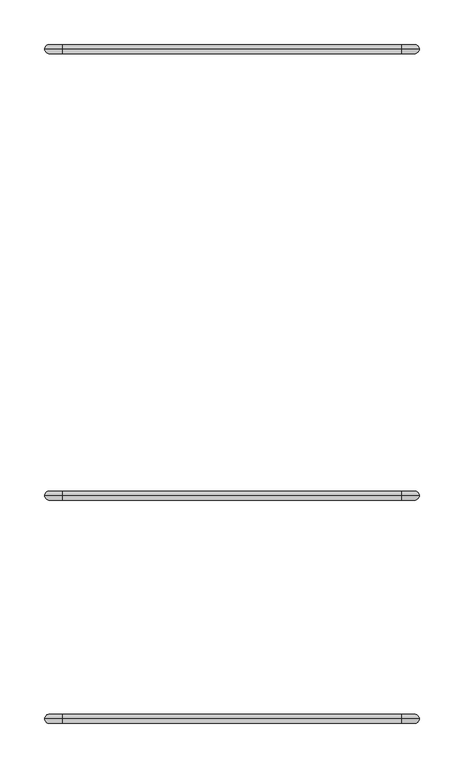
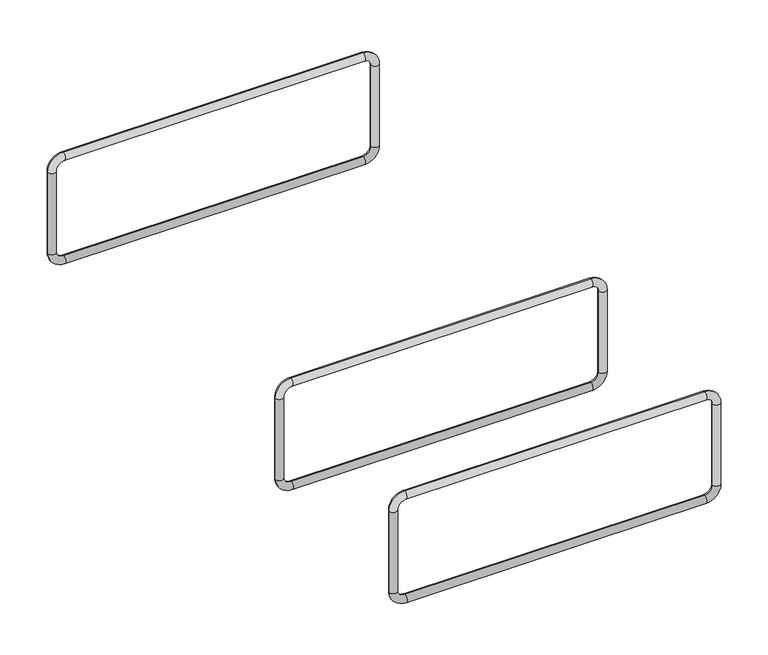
"""IFC4 building model written with IfcOpenShell, lengths in millimetres: proxy geometry, ACINOXplus_Typenreihe_Ux-Ox : OC+ S2."""

from ifc_helpers import new_model, si_unit, point, frame, origin, place, context, project, spatial, circle_curve, ellipse_curve, trimmed, source, transform, mapped, element, save
from ifc_brep_helpers import cylinder_surface, revolved_surface, advanced_brep


def generic_models_747b640e(model_context):
    return source(origin(), model_context, "Body", "AdvancedBrep", [
        advanced_brep(
        [(190.0, -125.0, -35.5), (190.0, -125.0, -25.5), (-190.0, -125.0, -25.5), (-190.0, -125.0, -35.5), (-200.0, -125.0, -45.5), (-210.0, -125.0, -45.5), (-210.0, -125.0, -154.5), (-200.0, -125.0, -154.5), (-190.0, -125.0, -164.5), (-190.0, -125.0, -174.5), (190.0, -125.0, -174.5), (190.0, -125.0, -164.5), (200.0, -125.0, -154.5), (210.0, -125.0, -154.5), (210.0, -125.0, -45.5), (200.0, -125.0, -45.5)],
        [
            (0, 1, circle_curve(frame((190.0, -125.0, -30.5), z_axis=(-1.0, 0.0, 0.0), x_axis=(0.0, 0.0, -1.0)), 5.0)),
            (1, 2),
            (2, 3, circle_curve(frame((-190.0, -125.0, -30.5), z_axis=(1.0, 0.0, 0.0), x_axis=(0.0, 0.0, -1.0)), 5.0)),
            (3, 0),
            (1, 0, circle_curve(frame((190.0, -125.0, -30.5), z_axis=(-1.0, 0.0, 0.0), x_axis=(0.0, 0.0, -1.0)), 5.0)),
            (3, 2, circle_curve(frame((-190.0, -125.0, -30.5), z_axis=(1.0, 0.0, 0.0), x_axis=(0.0, 0.0, -1.0)), 5.0)),
            (4, 3, circle_curve(frame((-190.0, -125.0, -45.5), z_axis=(0.0, 1.0, 0.0), x_axis=(0.0, 0.0, 1.0)), 10.0)),
            (2, 5, circle_curve(frame((-190.0, -125.0, -45.5), z_axis=(0.0, -1.0, 0.0), x_axis=(0.0, 0.0, 1.0)), 20.0)),
            (5, 4, circle_curve(frame((-205.0, -125.0, -45.5), z_axis=(0.0, 0.0, 1.0), x_axis=(1.0, 0.0, 0.0)), 5.0)),
            (4, 5, circle_curve(frame((-205.0, -125.0, -45.5), z_axis=(0.0, 0.0, 1.0), x_axis=(1.0, 0.0, 0.0)), 5.0)),
            (5, 6),
            (6, 7, circle_curve(frame((-205.0, -125.0, -154.5), z_axis=(0.0, 0.0, 1.0), x_axis=(1.0, 0.0, 0.0)), 5.0)),
            (7, 4),
            (7, 6, circle_curve(frame((-205.0, -125.0, -154.5), z_axis=(0.0, 0.0, 1.0), x_axis=(1.0, 0.0, 0.0)), 5.0)),
            (8, 7, circle_curve(frame((-190.0, -125.0, -154.5), z_axis=(0.0, 1.0, 0.0), x_axis=(-1.0, 0.0, 0.0)), 10.0)),
            (6, 9, circle_curve(frame((-190.0, -125.0, -154.5), z_axis=(0.0, -1.0, 0.0), x_axis=(-1.0, 0.0, 0.0)), 20.0)),
            (9, 8, circle_curve(frame((-190.0, -125.0, -169.5), z_axis=(-1.0, 0.0, 0.0), x_axis=(0.0, 0.0, 1.0)), 5.0)),
            (8, 9, circle_curve(frame((-190.0, -125.0, -169.5), z_axis=(-1.0, 0.0, 0.0), x_axis=(0.0, 0.0, 1.0)), 5.0)),
            (9, 10),
            (10, 11, circle_curve(frame((190.0, -125.0, -169.5), z_axis=(-1.0, 0.0, 0.0), x_axis=(0.0, 0.0, 1.0)), 5.0)),
            (11, 8),
            (11, 10, circle_curve(frame((190.0, -125.0, -169.5), z_axis=(-1.0, 0.0, 0.0), x_axis=(0.0, 0.0, 1.0)), 5.0)),
            (12, 11, circle_curve(frame((190.0, -125.0, -154.5), z_axis=(0.0, 1.0, 0.0), x_axis=(0.0, 0.0, -1.0)), 10.0)),
            (10, 13, circle_curve(frame((190.0, -125.0, -154.5), z_axis=(0.0, -1.0, 0.0), x_axis=(0.0, 0.0, -1.0)), 20.0)),
            (13, 12, circle_curve(frame((205.0, -125.0, -154.5), z_axis=(0.0, 0.0, -1.0), x_axis=(-1.0, 0.0, 0.0)), 5.0)),
            (12, 13, circle_curve(frame((205.0, -125.0, -154.5), z_axis=(0.0, 0.0, -1.0), x_axis=(-1.0, 0.0, 0.0)), 5.0)),
            (13, 14),
            (14, 15, circle_curve(frame((205.0, -125.0, -45.5), z_axis=(0.0, 0.0, -1.0), x_axis=(-1.0, 0.0, 0.0)), 5.0)),
            (15, 12),
            (15, 14, circle_curve(frame((205.0, -125.0, -45.5), z_axis=(0.0, 0.0, -1.0), x_axis=(-1.0, 0.0, 0.0)), 5.0)),
            (0, 15, circle_curve(frame((190.0, -125.0, -45.5), z_axis=(0.0, 1.0, 0.0), x_axis=(1.0, 0.0, 0.0)), 10.0)),
            (14, 1, circle_curve(frame((190.0, -125.0, -45.5), z_axis=(0.0, -1.0, 0.0), x_axis=(1.0, 0.0, 0.0)), 20.0)),
        ],
        [
            cylinder_surface(frame((190.0, -125.0, -30.5), z_axis=(1.0, 0.0, 0.0), x_axis=(0.0, 0.0, -1.0)), 5.0),
            revolved_surface(trimmed(ellipse_curve(frame((-190.0, -125.0, -30.5), z_axis=(1.0, 0.0, 0.0), x_axis=(0.0, 0.0, -1.0)), 5.0, 5.0), [point((-190.0, -125.0, -25.5))], [point((-190.0, -125.0, -35.5))], True, "CARTESIAN"), (-190.0, -125.0, -45.5), (0.0, -1.0, 0.0)),
            revolved_surface(trimmed(ellipse_curve(frame((-190.0, -125.0, -30.5), z_axis=(1.0, 0.0, 0.0), x_axis=(0.0, 0.0, -1.0)), 5.0, 5.0), [point((-190.0, -125.0, -35.5))], [point((-190.0, -125.0, -25.5))], True, "CARTESIAN"), (-190.0, -125.0, -45.5), (0.0, -1.0, 0.0)),
            cylinder_surface(frame((-205.0, -125.0, -45.5), z_axis=(0.0, 0.0, 1.0), x_axis=(1.0, 0.0, 0.0)), 5.0),
            revolved_surface(trimmed(ellipse_curve(frame((-205.0, -125.0, -154.5), z_axis=(0.0, 0.0, 1.0), x_axis=(1.0, 0.0, 0.0)), 5.0, 5.0), [point((-210.0, -125.0, -154.5))], [point((-200.0, -125.0, -154.5))], True, "CARTESIAN"), (-190.0, -125.0, -154.5), (0.0, -1.0, 0.0)),
            revolved_surface(trimmed(ellipse_curve(frame((-205.0, -125.0, -154.5), z_axis=(0.0, 0.0, 1.0), x_axis=(1.0, 0.0, 0.0)), 5.0, 5.0), [point((-200.0, -125.0, -154.5))], [point((-210.0, -125.0, -154.5))], True, "CARTESIAN"), (-190.0, -125.0, -154.5), (0.0, -1.0, 0.0)),
            cylinder_surface(frame((-190.0, -125.0, -169.5), z_axis=(-1.0, 0.0, 0.0), x_axis=(0.0, 0.0, 1.0)), 5.0),
            revolved_surface(trimmed(ellipse_curve(frame((190.0, -125.0, -169.5), z_axis=(-1.0, 0.0, 0.0), x_axis=(0.0, 0.0, 1.0)), 5.0, 5.0), [point((190.0, -125.0, -174.5))], [point((190.0, -125.0, -164.5))], True, "CARTESIAN"), (190.0, -125.0, -154.5), (0.0, -1.0, 0.0)),
            revolved_surface(trimmed(ellipse_curve(frame((190.0, -125.0, -169.5), z_axis=(-1.0, 0.0, 0.0), x_axis=(0.0, 0.0, 1.0)), 5.0, 5.0), [point((190.0, -125.0, -164.5))], [point((190.0, -125.0, -174.5))], True, "CARTESIAN"), (190.0, -125.0, -154.5), (0.0, -1.0, 0.0)),
            cylinder_surface(frame((205.0, -125.0, -154.5), z_axis=(0.0, 0.0, -1.0), x_axis=(-1.0, 0.0, 0.0)), 5.0),
            revolved_surface(trimmed(ellipse_curve(frame((205.0, -125.0, -45.5), z_axis=(0.0, 0.0, -1.0), x_axis=(-1.0, 0.0, 0.0)), 5.0, 5.0), [point((210.0, -125.0, -45.5))], [point((200.0, -125.0, -45.5))], True, "CARTESIAN"), (190.0, -125.0, -45.5), (0.0, -1.0, 0.0)),
            revolved_surface(trimmed(ellipse_curve(frame((205.0, -125.0, -45.5), z_axis=(0.0, 0.0, -1.0), x_axis=(-1.0, 0.0, 0.0)), 5.0, 5.0), [point((200.0, -125.0, -45.5))], [point((210.0, -125.0, -45.5))], True, "CARTESIAN"), (190.0, -125.0, -45.5), (0.0, -1.0, 0.0)),
        ],
        [
            (0, [[1, 2, 3, 4]]),
            (0, [[5, -4, 6, -2]]),
            (1, [[7, -3, 8, 9]]),
            (2, [[-8, -6, -7, 10]]),
            (3, [[-9, 11, 12, 13]]),
            (3, [[-10, -13, 14, -11]]),
            (4, [[15, -12, 16, 17]]),
            (5, [[-16, -14, -15, 18]]),
            (6, [[-17, 19, 20, 21]]),
            (6, [[-18, -21, 22, -19]]),
            (7, [[23, -20, 24, 25]]),
            (8, [[-24, -22, -23, 26]]),
            (9, [[-25, 27, 28, 29]]),
            (9, [[-26, -29, 30, -27]]),
            (10, [[31, -28, 32, -1]]),
            (11, [[-32, -30, -31, -5]]),
        ],
    ),
        advanced_brep(
        [(190.0, 375.0, -35.5), (190.0, 375.0, -25.5), (-190.0, 375.0, -25.5), (-190.0, 375.0, -35.5), (-200.0, 375.0, -45.5), (-210.0, 375.0, -45.5), (-210.0, 375.0, -154.5), (-200.0, 375.0, -154.5), (-190.0, 375.0, -164.5), (-190.0, 375.0, -174.5), (190.0, 375.0, -174.5), (190.0, 375.0, -164.5), (200.0, 375.0, -154.5), (210.0, 375.0, -154.5), (210.0, 375.0, -45.5), (200.0, 375.0, -45.5)],
        [
            (0, 1, circle_curve(frame((190.0, 375.0, -30.5), z_axis=(-1.0, 0.0, 0.0), x_axis=(0.0, 0.0, -1.0)), 5.0)),
            (1, 2),
            (2, 3, circle_curve(frame((-190.0, 375.0, -30.5), z_axis=(1.0, 0.0, 0.0), x_axis=(0.0, 0.0, -1.0)), 5.0)),
            (3, 0),
            (1, 0, circle_curve(frame((190.0, 375.0, -30.5), z_axis=(-1.0, 0.0, 0.0), x_axis=(0.0, 0.0, -1.0)), 5.0)),
            (3, 2, circle_curve(frame((-190.0, 375.0, -30.5), z_axis=(1.0, 0.0, 0.0), x_axis=(0.0, 0.0, -1.0)), 5.0)),
            (4, 3, circle_curve(frame((-190.0, 375.0, -45.5), z_axis=(0.0, 1.0, 0.0), x_axis=(0.0, 0.0, 1.0)), 10.0)),
            (2, 5, circle_curve(frame((-190.0, 375.0, -45.5), z_axis=(0.0, -1.0, 0.0), x_axis=(0.0, 0.0, 1.0)), 20.0)),
            (5, 4, circle_curve(frame((-205.0, 375.0, -45.5), z_axis=(0.0, 0.0, 1.0), x_axis=(1.0, 0.0, 0.0)), 5.0)),
            (4, 5, circle_curve(frame((-205.0, 375.0, -45.5), z_axis=(0.0, 0.0, 1.0), x_axis=(1.0, 0.0, 0.0)), 5.0)),
            (5, 6),
            (6, 7, circle_curve(frame((-205.0, 375.0, -154.5), z_axis=(0.0, 0.0, 1.0), x_axis=(1.0, 0.0, 0.0)), 5.0)),
            (7, 4),
            (7, 6, circle_curve(frame((-205.0, 375.0, -154.5), z_axis=(0.0, 0.0, 1.0), x_axis=(1.0, 0.0, 0.0)), 5.0)),
            (8, 7, circle_curve(frame((-190.0, 375.0, -154.5), z_axis=(0.0, 1.0, 0.0), x_axis=(-1.0, 0.0, 0.0)), 10.0)),
            (6, 9, circle_curve(frame((-190.0, 375.0, -154.5), z_axis=(0.0, -1.0, 0.0), x_axis=(-1.0, 0.0, 0.0)), 20.0)),
            (9, 8, circle_curve(frame((-190.0, 375.0, -169.5), z_axis=(-1.0, 0.0, 0.0), x_axis=(0.0, 0.0, 1.0)), 5.0)),
            (8, 9, circle_curve(frame((-190.0, 375.0, -169.5), z_axis=(-1.0, 0.0, 0.0), x_axis=(0.0, 0.0, 1.0)), 5.0)),
            (9, 10),
            (10, 11, circle_curve(frame((190.0, 375.0, -169.5), z_axis=(-1.0, 0.0, 0.0), x_axis=(0.0, 0.0, 1.0)), 5.0)),
            (11, 8),
            (11, 10, circle_curve(frame((190.0, 375.0, -169.5), z_axis=(-1.0, 0.0, 0.0), x_axis=(0.0, 0.0, 1.0)), 5.0)),
            (12, 11, circle_curve(frame((190.0, 375.0, -154.5), z_axis=(0.0, 1.0, 0.0), x_axis=(0.0, 0.0, -1.0)), 10.0)),
            (10, 13, circle_curve(frame((190.0, 375.0, -154.5), z_axis=(0.0, -1.0, 0.0), x_axis=(0.0, 0.0, -1.0)), 20.0)),
            (13, 12, circle_curve(frame((205.0, 375.0, -154.5), z_axis=(0.0, 0.0, -1.0), x_axis=(-1.0, 0.0, 0.0)), 5.0)),
            (12, 13, circle_curve(frame((205.0, 375.0, -154.5), z_axis=(0.0, 0.0, -1.0), x_axis=(-1.0, 0.0, 0.0)), 5.0)),
            (13, 14),
            (14, 15, circle_curve(frame((205.0, 375.0, -45.5), z_axis=(0.0, 0.0, -1.0), x_axis=(-1.0, 0.0, 0.0)), 5.0)),
            (15, 12),
            (15, 14, circle_curve(frame((205.0, 375.0, -45.5), z_axis=(0.0, 0.0, -1.0), x_axis=(-1.0, 0.0, 0.0)), 5.0)),
            (0, 15, circle_curve(frame((190.0, 375.0, -45.5), z_axis=(0.0, 1.0, 0.0), x_axis=(1.0, 0.0, 0.0)), 10.0)),
            (14, 1, circle_curve(frame((190.0, 375.0, -45.5), z_axis=(0.0, -1.0, 0.0), x_axis=(1.0, 0.0, 0.0)), 20.0)),
        ],
        [
            cylinder_surface(frame((190.0, 375.0, -30.5), z_axis=(1.0, 0.0, 0.0), x_axis=(0.0, 0.0, -1.0)), 5.0),
            revolved_surface(trimmed(ellipse_curve(frame((-190.0, 375.0, -30.5), z_axis=(1.0, 0.0, 0.0), x_axis=(0.0, 0.0, -1.0)), 5.0, 5.0), [point((-190.0, 375.0, -25.5))], [point((-190.0, 375.0, -35.5))], True, "CARTESIAN"), (-190.0, 375.0, -45.5), (0.0, -1.0, 0.0)),
            revolved_surface(trimmed(ellipse_curve(frame((-190.0, 375.0, -30.5), z_axis=(1.0, 0.0, 0.0), x_axis=(0.0, 0.0, -1.0)), 5.0, 5.0), [point((-190.0, 375.0, -35.5))], [point((-190.0, 375.0, -25.5))], True, "CARTESIAN"), (-190.0, 375.0, -45.5), (0.0, -1.0, 0.0)),
            cylinder_surface(frame((-205.0, 375.0, -45.5), z_axis=(0.0, 0.0, 1.0), x_axis=(1.0, 0.0, 0.0)), 5.0),
            revolved_surface(trimmed(ellipse_curve(frame((-205.0, 375.0, -154.5), z_axis=(0.0, 0.0, 1.0), x_axis=(1.0, 0.0, 0.0)), 5.0, 5.0), [point((-210.0, 375.0, -154.5))], [point((-200.0, 375.0, -154.5))], True, "CARTESIAN"), (-190.0, 375.0, -154.5), (0.0, -1.0, 0.0)),
            revolved_surface(trimmed(ellipse_curve(frame((-205.0, 375.0, -154.5), z_axis=(0.0, 0.0, 1.0), x_axis=(1.0, 0.0, 0.0)), 5.0, 5.0), [point((-200.0, 375.0, -154.5))], [point((-210.0, 375.0, -154.5))], True, "CARTESIAN"), (-190.0, 375.0, -154.5), (0.0, -1.0, 0.0)),
            cylinder_surface(frame((-190.0, 375.0, -169.5), z_axis=(-1.0, 0.0, 0.0), x_axis=(0.0, 0.0, 1.0)), 5.0),
            revolved_surface(trimmed(ellipse_curve(frame((190.0, 375.0, -169.5), z_axis=(-1.0, 0.0, 0.0), x_axis=(0.0, 0.0, 1.0)), 5.0, 5.0), [point((190.0, 375.0, -174.5))], [point((190.0, 375.0, -164.5))], True, "CARTESIAN"), (190.0, 375.0, -154.5), (0.0, -1.0, 0.0)),
            revolved_surface(trimmed(ellipse_curve(frame((190.0, 375.0, -169.5), z_axis=(-1.0, 0.0, 0.0), x_axis=(0.0, 0.0, 1.0)), 5.0, 5.0), [point((190.0, 375.0, -164.5))], [point((190.0, 375.0, -174.5))], True, "CARTESIAN"), (190.0, 375.0, -154.5), (0.0, -1.0, 0.0)),
            cylinder_surface(frame((205.0, 375.0, -154.5), z_axis=(0.0, 0.0, -1.0), x_axis=(-1.0, 0.0, 0.0)), 5.0),
            revolved_surface(trimmed(ellipse_curve(frame((205.0, 375.0, -45.5), z_axis=(0.0, 0.0, -1.0), x_axis=(-1.0, 0.0, 0.0)), 5.0, 5.0), [point((210.0, 375.0, -45.5))], [point((200.0, 375.0, -45.5))], True, "CARTESIAN"), (190.0, 375.0, -45.5), (0.0, -1.0, 0.0)),
            revolved_surface(trimmed(ellipse_curve(frame((205.0, 375.0, -45.5), z_axis=(0.0, 0.0, -1.0), x_axis=(-1.0, 0.0, 0.0)), 5.0, 5.0), [point((200.0, 375.0, -45.5))], [point((210.0, 375.0, -45.5))], True, "CARTESIAN"), (190.0, 375.0, -45.5), (0.0, -1.0, 0.0)),
        ],
        [
            (0, [[1, 2, 3, 4]]),
            (0, [[5, -4, 6, -2]]),
            (1, [[7, -3, 8, 9]]),
            (2, [[-8, -6, -7, 10]]),
            (3, [[-9, 11, 12, 13]]),
            (3, [[-10, -13, 14, -11]]),
            (4, [[15, -12, 16, 17]]),
            (5, [[-16, -14, -15, 18]]),
            (6, [[-17, 19, 20, 21]]),
            (6, [[-18, -21, 22, -19]]),
            (7, [[23, -20, 24, 25]]),
            (8, [[-24, -22, -23, 26]]),
            (9, [[-25, 27, 28, 29]]),
            (9, [[-26, -29, 30, -27]]),
            (10, [[31, -28, 32, -1]]),
            (11, [[-32, -30, -31, -5]]),
        ],
    ),
        advanced_brep(
        [(190.0, -375.0, -35.5), (190.0, -375.0, -25.5), (-190.0, -375.0, -25.5), (-190.0, -375.0, -35.5), (-200.0, -375.0, -45.5), (-210.0, -375.0, -45.5), (-210.0, -375.0, -154.5), (-200.0, -375.0, -154.5), (-190.0, -375.0, -164.5), (-190.0, -375.0, -174.5), (190.0, -375.0, -174.5), (190.0, -375.0, -164.5), (200.0, -375.0, -154.5), (210.0, -375.0, -154.5), (210.0, -375.0, -45.5), (200.0, -375.0, -45.5)],
        [
            (0, 1, circle_curve(frame((190.0, -375.0, -30.5), z_axis=(-1.0, 0.0, 0.0), x_axis=(0.0, 0.0, -1.0)), 5.0)),
            (1, 2),
            (2, 3, circle_curve(frame((-190.0, -375.0, -30.5), z_axis=(1.0, 0.0, 0.0), x_axis=(0.0, 0.0, -1.0)), 5.0)),
            (3, 0),
            (1, 0, circle_curve(frame((190.0, -375.0, -30.5), z_axis=(-1.0, 0.0, 0.0), x_axis=(0.0, 0.0, -1.0)), 5.0)),
            (3, 2, circle_curve(frame((-190.0, -375.0, -30.5), z_axis=(1.0, 0.0, 0.0), x_axis=(0.0, 0.0, -1.0)), 5.0)),
            (4, 3, circle_curve(frame((-190.0, -375.0, -45.5), z_axis=(0.0, 1.0, 0.0), x_axis=(0.0, 0.0, 1.0)), 10.0)),
            (2, 5, circle_curve(frame((-190.0, -375.0, -45.5), z_axis=(0.0, -1.0, 0.0), x_axis=(0.0, 0.0, 1.0)), 20.0)),
            (5, 4, circle_curve(frame((-205.0, -375.0, -45.5), z_axis=(0.0, 0.0, 1.0), x_axis=(1.0, 0.0, 0.0)), 5.0)),
            (4, 5, circle_curve(frame((-205.0, -375.0, -45.5), z_axis=(0.0, 0.0, 1.0), x_axis=(1.0, 0.0, 0.0)), 5.0)),
            (5, 6),
            (6, 7, circle_curve(frame((-205.0, -375.0, -154.5), z_axis=(0.0, 0.0, 1.0), x_axis=(1.0, 0.0, 0.0)), 5.0)),
            (7, 4),
            (7, 6, circle_curve(frame((-205.0, -375.0, -154.5), z_axis=(0.0, 0.0, 1.0), x_axis=(1.0, 0.0, 0.0)), 5.0)),
            (8, 7, circle_curve(frame((-190.0, -375.0, -154.5), z_axis=(0.0, 1.0, 0.0), x_axis=(-1.0, 0.0, 0.0)), 10.0)),
            (6, 9, circle_curve(frame((-190.0, -375.0, -154.5), z_axis=(0.0, -1.0, 0.0), x_axis=(-1.0, 0.0, 0.0)), 20.0)),
            (9, 8, circle_curve(frame((-190.0, -375.0, -169.5), z_axis=(-1.0, 0.0, 0.0), x_axis=(0.0, 0.0, 1.0)), 5.0)),
            (8, 9, circle_curve(frame((-190.0, -375.0, -169.5), z_axis=(-1.0, 0.0, 0.0), x_axis=(0.0, 0.0, 1.0)), 5.0)),
            (9, 10),
            (10, 11, circle_curve(frame((190.0, -375.0, -169.5), z_axis=(-1.0, 0.0, 0.0), x_axis=(0.0, 0.0, 1.0)), 5.0)),
            (11, 8),
            (11, 10, circle_curve(frame((190.0, -375.0, -169.5), z_axis=(-1.0, 0.0, 0.0), x_axis=(0.0, 0.0, 1.0)), 5.0)),
            (12, 11, circle_curve(frame((190.0, -375.0, -154.5), z_axis=(0.0, 1.0, 0.0), x_axis=(0.0, 0.0, -1.0)), 10.0)),
            (10, 13, circle_curve(frame((190.0, -375.0, -154.5), z_axis=(0.0, -1.0, 0.0), x_axis=(0.0, 0.0, -1.0)), 20.0)),
            (13, 12, circle_curve(frame((205.0, -375.0, -154.5), z_axis=(0.0, 0.0, -1.0), x_axis=(-1.0, 0.0, 0.0)), 5.0)),
            (12, 13, circle_curve(frame((205.0, -375.0, -154.5), z_axis=(0.0, 0.0, -1.0), x_axis=(-1.0, 0.0, 0.0)), 5.0)),
            (13, 14),
            (14, 15, circle_curve(frame((205.0, -375.0, -45.5), z_axis=(0.0, 0.0, -1.0), x_axis=(-1.0, 0.0, 0.0)), 5.0)),
            (15, 12),
            (15, 14, circle_curve(frame((205.0, -375.0, -45.5), z_axis=(0.0, 0.0, -1.0), x_axis=(-1.0, 0.0, 0.0)), 5.0)),
            (0, 15, circle_curve(frame((190.0, -375.0, -45.5), z_axis=(0.0, 1.0, 0.0), x_axis=(1.0, 0.0, 0.0)), 10.0)),
            (14, 1, circle_curve(frame((190.0, -375.0, -45.5), z_axis=(0.0, -1.0, 0.0), x_axis=(1.0, 0.0, 0.0)), 20.0)),
        ],
        [
            cylinder_surface(frame((190.0, -375.0, -30.5), z_axis=(1.0, 0.0, 0.0), x_axis=(0.0, 0.0, -1.0)), 5.0),
            revolved_surface(trimmed(ellipse_curve(frame((-190.0, -375.0, -30.5), z_axis=(1.0, 0.0, 0.0), x_axis=(0.0, 0.0, -1.0)), 5.0, 5.0), [point((-190.0, -375.0, -25.5))], [point((-190.0, -375.0, -35.5))], True, "CARTESIAN"), (-190.0, -375.0, -45.5), (0.0, -1.0, 0.0)),
            revolved_surface(trimmed(ellipse_curve(frame((-190.0, -375.0, -30.5), z_axis=(1.0, 0.0, 0.0), x_axis=(0.0, 0.0, -1.0)), 5.0, 5.0), [point((-190.0, -375.0, -35.5))], [point((-190.0, -375.0, -25.5))], True, "CARTESIAN"), (-190.0, -375.0, -45.5), (0.0, -1.0, 0.0)),
            cylinder_surface(frame((-205.0, -375.0, -45.5), z_axis=(0.0, 0.0, 1.0), x_axis=(1.0, 0.0, 0.0)), 5.0),
            revolved_surface(trimmed(ellipse_curve(frame((-205.0, -375.0, -154.5), z_axis=(0.0, 0.0, 1.0), x_axis=(1.0, 0.0, 0.0)), 5.0, 5.0), [point((-210.0, -375.0, -154.5))], [point((-200.0, -375.0, -154.5))], True, "CARTESIAN"), (-190.0, -375.0, -154.5), (0.0, -1.0, 0.0)),
            revolved_surface(trimmed(ellipse_curve(frame((-205.0, -375.0, -154.5), z_axis=(0.0, 0.0, 1.0), x_axis=(1.0, 0.0, 0.0)), 5.0, 5.0), [point((-200.0, -375.0, -154.5))], [point((-210.0, -375.0, -154.5))], True, "CARTESIAN"), (-190.0, -375.0, -154.5), (0.0, -1.0, 0.0)),
            cylinder_surface(frame((-190.0, -375.0, -169.5), z_axis=(-1.0, 0.0, 0.0), x_axis=(0.0, 0.0, 1.0)), 5.0),
            revolved_surface(trimmed(ellipse_curve(frame((190.0, -375.0, -169.5), z_axis=(-1.0, 0.0, 0.0), x_axis=(0.0, 0.0, 1.0)), 5.0, 5.0), [point((190.0, -375.0, -174.5))], [point((190.0, -375.0, -164.5))], True, "CARTESIAN"), (190.0, -375.0, -154.5), (0.0, -1.0, 0.0)),
            revolved_surface(trimmed(ellipse_curve(frame((190.0, -375.0, -169.5), z_axis=(-1.0, 0.0, 0.0), x_axis=(0.0, 0.0, 1.0)), 5.0, 5.0), [point((190.0, -375.0, -164.5))], [point((190.0, -375.0, -174.5))], True, "CARTESIAN"), (190.0, -375.0, -154.5), (0.0, -1.0, 0.0)),
            cylinder_surface(frame((205.0, -375.0, -154.5), z_axis=(0.0, 0.0, -1.0), x_axis=(-1.0, 0.0, 0.0)), 5.0),
            revolved_surface(trimmed(ellipse_curve(frame((205.0, -375.0, -45.5), z_axis=(0.0, 0.0, -1.0), x_axis=(-1.0, 0.0, 0.0)), 5.0, 5.0), [point((210.0, -375.0, -45.5))], [point((200.0, -375.0, -45.5))], True, "CARTESIAN"), (190.0, -375.0, -45.5), (0.0, -1.0, 0.0)),
            revolved_surface(trimmed(ellipse_curve(frame((205.0, -375.0, -45.5), z_axis=(0.0, 0.0, -1.0), x_axis=(-1.0, 0.0, 0.0)), 5.0, 5.0), [point((200.0, -375.0, -45.5))], [point((210.0, -375.0, -45.5))], True, "CARTESIAN"), (190.0, -375.0, -45.5), (0.0, -1.0, 0.0)),
        ],
        [
            (0, [[1, 2, 3, 4]]),
            (0, [[5, -4, 6, -2]]),
            (1, [[7, -3, 8, 9]]),
            (2, [[-8, -6, -7, 10]]),
            (3, [[-9, 11, 12, 13]]),
            (3, [[-10, -13, 14, -11]]),
            (4, [[15, -12, 16, 17]]),
            (5, [[-16, -14, -15, 18]]),
            (6, [[-17, 19, 20, 21]]),
            (6, [[-18, -21, 22, -19]]),
            (7, [[23, -20, 24, 25]]),
            (8, [[-24, -22, -23, 26]]),
            (9, [[-25, 27, 28, 29]]),
            (9, [[-26, -29, 30, -27]]),
            (10, [[31, -28, 32, -1]]),
            (11, [[-32, -30, -31, -5]]),
        ],
    ),
    ])


if __name__ == "__main__":
    model = new_model("IFC4")
    model_context = context("Model", 3, world=origin())
    ifc_project = project(units=[si_unit("LENGTHUNIT", "METRE", prefix="MILLI")], contexts=[model_context])
    site = spatial("IfcSite", under=ifc_project)
    building = spatial("IfcBuilding", under=site)
    placement = place(None, origin())
    generic_models_shape = generic_models_747b640e(model_context)
    element("IfcBuildingElementProxy", 1, Name="ACINOXplus_Typenreihe_Ux-Ox : OC+ S2", ObjectType="ACINOXplus_Typenreihe_Ux-Ox : OC+ S2", at=placement, inside=building, context=model_context, shape_type="MappedRepresentation", body=[
        mapped(generic_models_shape, transform((0.0, 0.0, 0.0), x_axis=(1.0, 0.0, 0.0), y_axis=(0.0, 1.0, 0.0), z_axis=(0.0, 0.0, 1.0))),
    ])
    save(model, "model.ifc")
